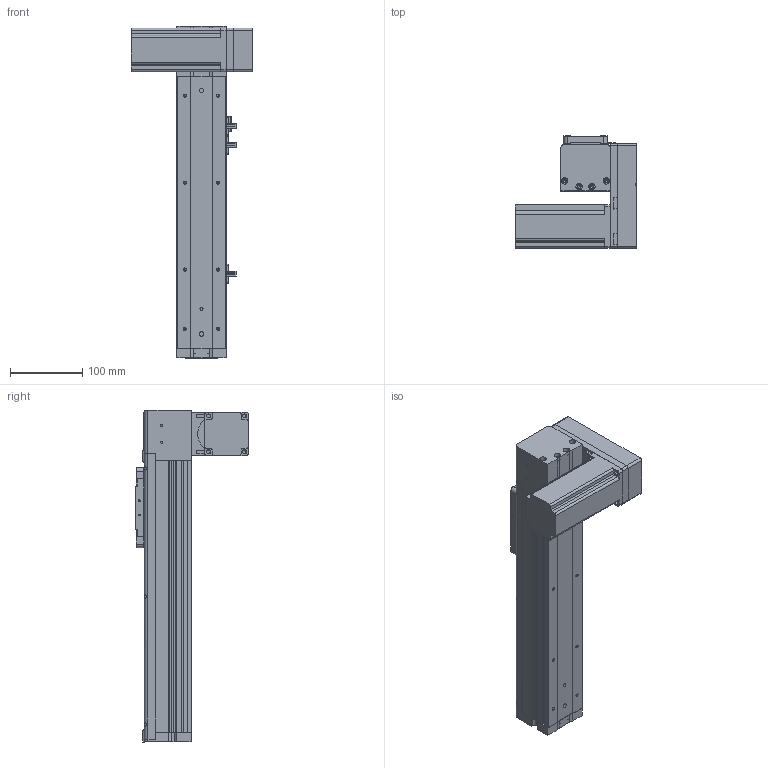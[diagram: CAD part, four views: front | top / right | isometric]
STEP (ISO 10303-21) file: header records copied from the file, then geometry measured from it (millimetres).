
FILE_DESCRIPTION (( 'STEP AP214' ), '1' );
FILE_NAME ('KSD68BS-S200-MLD-CR.STEP', '2019-08-27T03:25:37', ( '微软用户' ), ( '微软中国' ), 'SwSTEP 2.0', 'SolidWorks 2014', '' );
FILE_SCHEMA (( 'AUTOMOTIVE_DESIGN' ));
Length unit declared in the file: millimetre
Products named in the file (14): 悵誘欶奻狟殏; 68宽马达安装板连板上折同步带; 感应片68宽全封闭; U倰嫖萇EEㄜSX672; 台达ECMA－C20604AS伺服电机（400W); KSD68BS 200行程底板全封闭; 68遵裔啣揤啣1; KSD68BS-S200-MLD-CR; 68宽单导轨全封闭丝杆传动安装板1防护罩; KSD68BS 200行程侧板全封闭; 68宽单导轨全封闭同步带端板; 68单导轨全封闭同步带电机座左; KSD68BS 200行程盖板全封闭; 68单导轨全封闭同步带安装板
Assembly tree (17 placements, depth 2):
  KSD68BS-S200-MLD-CR
    KSD68BS 200行程底板全封闭
    台达ECMA－C20604AS伺服电机（400W)
    U倰嫖萇EEㄜSX672  x3
    感应片68宽全封闭
    68宽马达安装板连板上折同步带
    悵誘欶奻狟殏
    68单导轨全封闭同步带安装板
    68单导轨全封闭同步带电机座左
    68宽单导轨全封闭同步带端板
    KSD68BS 200行程侧板全封闭  x2
    68宽单导轨全封闭丝杆传动安装板1防护罩
    68遵裔啣揤啣1  x2
    KSD68BS 200行程盖板全封闭
Bounding box: 167.2 x 155.5 x 458.1 mm (x, y, z)
Volume: 1459485.4 mm3; surface area: 462818.2 mm2
Topology: 18 solids, 18 shells, 1345 faces, 3767 edges, 2426 vertices
Faces by surface type: plane 621, cylinder 596, cone 128
Entity records: 41143 total; most frequent: CARTESIAN_POINT 6925, DIRECTION 6238, ORIENTED_EDGE 5986, EDGE_CURVE 2993, AXIS2_PLACEMENT_3D 2207, VERTEX_POINT 1964, VECTOR 1824, LINE 1824
